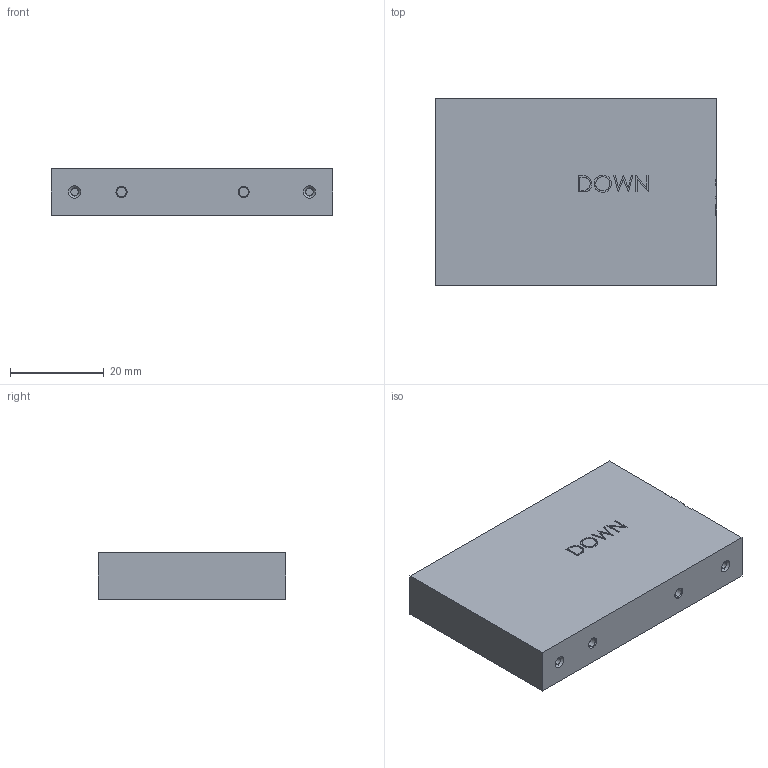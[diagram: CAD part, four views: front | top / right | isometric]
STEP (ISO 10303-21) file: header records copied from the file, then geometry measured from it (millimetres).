
FILE_DESCRIPTION (( 'STEP AP214' ), '1' );
FILE_NAME ('C12.STEP', '2016-02-27T15:11:01', ( '' ), ( '' ), 'SwSTEP 2.0', 'SolidWorks 2012', '' );
FILE_SCHEMA (( 'AUTOMOTIVE_DESIGN' ));
Length unit declared in the file: millimetre
Products named in the file (1): C12
Bounding box: 60 x 40 x 10 mm (x, y, z)
Volume: 23802.3 mm3; surface area: 7229.1 mm2
Topology: 1 solids, 1 shells, 126 faces, 314 edges, 204 vertices
Faces by surface type: plane 64, bspline 30, cone 16, cylinder 16
Entity records: 5652 total; most frequent: CARTESIAN_POINT 2775, ORIENTED_EDGE 628, DIRECTION 496, EDGE_CURVE 314, LINE 206, VECTOR 206, VERTEX_POINT 204, AXIS2_PLACEMENT_3D 145
